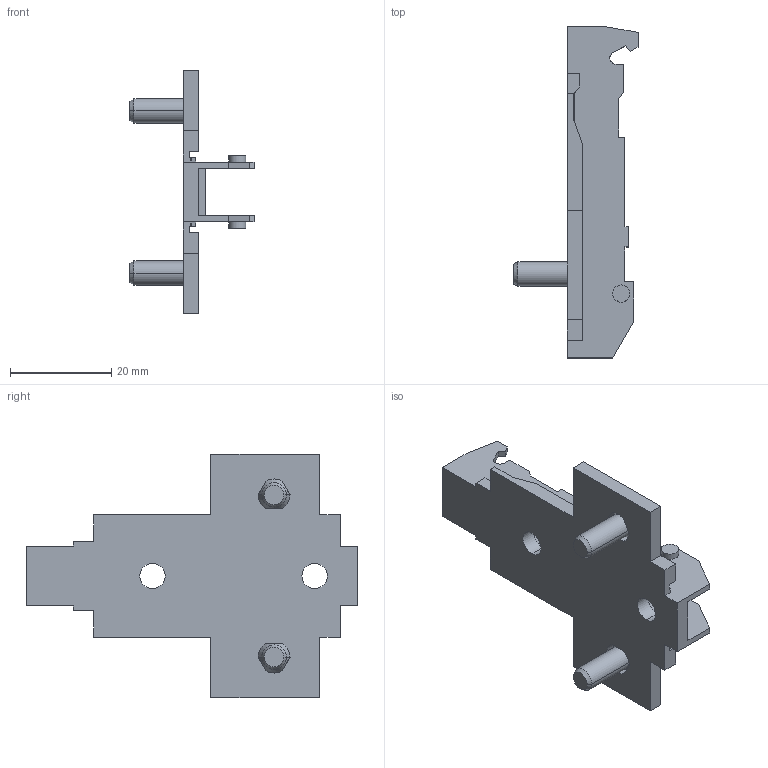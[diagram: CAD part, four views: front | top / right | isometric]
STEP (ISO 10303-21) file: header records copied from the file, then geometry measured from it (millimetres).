
FILE_DESCRIPTION (( 'STEP AP214' ), '1' );
FILE_NAME ('1D_Kreuzmontageplatte 28_32_Euro_vorgestellt 13,5_3,5.step', '2018-10-02T12:38:53', ( '' ), ( '' ), 'SwSTEP 2.0', 'SolidWorks 2017', '' );
FILE_SCHEMA (( 'AUTOMOTIVE_DESIGN' ));
Length unit declared in the file: millimetre
Products named in the file (1): 1D_Kreuzmontageplatte 28_32_Euro_vorgestellt 13,5_3,5
Bounding box: 24.5 x 65.5 x 48 mm (x, y, z)
Volume: 7013.4 mm3; surface area: 7563.2 mm2
Topology: 1 solids, 1 shells, 138 faces, 390 edges, 254 vertices
Faces by surface type: plane 92, cylinder 34, cone 12
Entity records: 4550 total; most frequent: CARTESIAN_POINT 873, ORIENTED_EDGE 780, DIRECTION 730, EDGE_CURVE 390, VECTOR 292, LINE 292, VERTEX_POINT 254, AXIS2_PLACEMENT_3D 219
